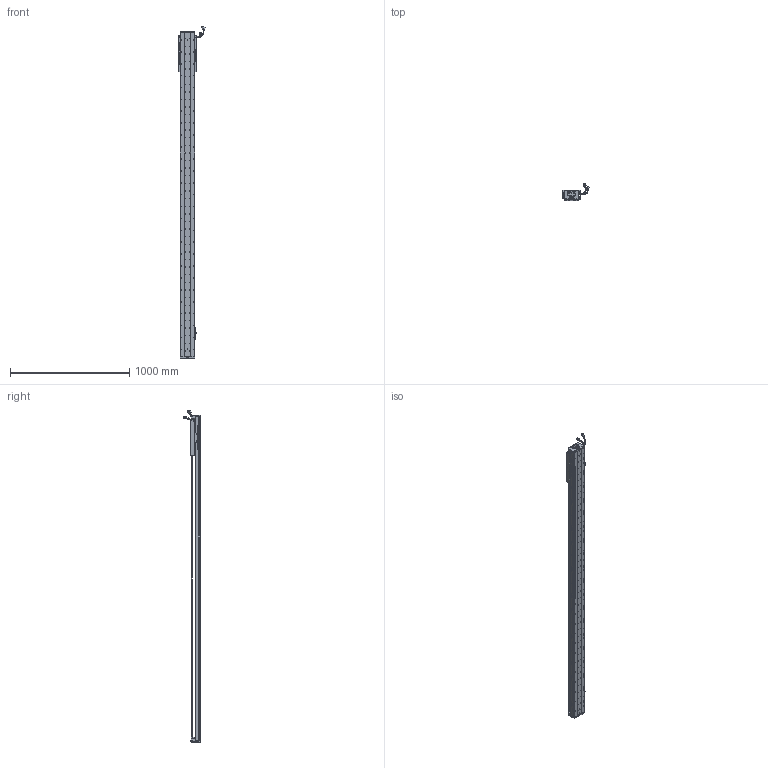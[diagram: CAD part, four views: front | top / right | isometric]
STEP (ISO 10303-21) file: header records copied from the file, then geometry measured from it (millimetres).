
FILE_DESCRIPTION (( 'STEP AP203' ), '1' );
FILE_NAME ('Z4-RY120D-1-L500-B-K.SLDASM_2350.step', '2021-05-17T06:10:11', ( '盈信电脑' ), ( '东莞市道滘镇水果街19号' ), 'SwSTEP 2.0', 'SolidWorks 2016', '' );
FILE_SCHEMA (( 'CONFIG_CONTROL_DESIGN' ));
Length unit declared in the file: millimetre
Products named in the file (37): PBU_SHEET; 榋妏寠巭燃_暯_M2_2; 120-Z-臏賑輸盄裔(21遴); SCALE; SCREW-M1.7; HARNESS-Part-2; Z4-RY120铝滑块（21款）; SCREW-M1.6-2; HOLDER0; COVER; 672嫖萇羲壽假蚾釱; 080黍杅芛假蚾釱21遴; SCALE-Part-1; 140雄赽晤鎢ん堤盄; PSLH080_PSLF2; SHIELDPLATE; Z4-RY120-L500詩湍100mm遵_2350; LABEL; 覜茼ん672; HARNESS-Part-1; SCREW-M1.6-1; Z-120詩湍傷裔啣; COVER-Part-1; SCREW-M1.6; 140蚥薯蝶輸; SCREW-M1.6-3; LABEL-Part-1; Z4-RY120-500-倰第菁釱_2350; SEAL; Z-RY120D詩湍奻揤裔; Z4-RY120D-1-L500-B-K.SLDASM_2350; SCALE-Part-2; HARNESS; SCREW-M1.7-1; RY100FB-遵嫖萇覜茼え; SEAL-Part-1; Z-RY120D詩湍狟揤裔
Assembly tree (43 placements, depth 4):
  Z4-RY120D-1-L500-B-K.SLDASM_2350
    Z4-RY120-500-倰第菁釱_2350
    覜茼ん672  x3
    672嫖萇羲壽假蚾釱  x2
    Z4-RY120铝滑块（21款）
    PSLH080_PSLF2
      SCALE
        SCALE-Part-1
        SCALE-Part-2
      HARNESS
        HARNESS-Part-1
        HARNESS-Part-2
      LABEL
        LABEL-Part-1
      COVER
        COVER-Part-1
      SEAL
        SEAL-Part-1
      榋妏寠巭燃_暯_M2_2
      SHIELDPLATE
      SCREW-M1.7
      SCREW-M1.7-1
      PBU_SHEET
      SCREW-M1.6
      SCREW-M1.6-1
      SCREW-M1.6-2
      SCREW-M1.6-3
      HOLDER0
    080黍杅芛假蚾釱21遴
    120-Z-臏賑輸盄裔(21遴)
    140雄赽晤鎢ん堤盄
    140蚥薯蝶輸  x2
    RY100FB-遵嫖萇覜茼え
    Z-120詩湍傷裔啣  x2
    Z-RY120D詩湍奻揤裔  x2
    Z-RY120D詩湍狟揤裔  x2
    Z4-RY120-L500詩湍100mm遵_2350
Bounding box: 222.83 x 140.94 x 2788.99 mm (x, y, z)
Volume: 6685409.1 mm3; surface area: 2306882.6 mm2
Topology: 38 solids, 38 shells, 3761 faces, 10734 edges, 6770 vertices
Faces by surface type: cylinder 1988, plane 1257, cone 394, torus 69, bspline 53
Entity records: 126817 total; most frequent: CARTESIAN_POINT 38970, ORIENTED_EDGE 18204, DIRECTION 16666, EDGE_CURVE 9102, AXIS2_PLACEMENT_3D 6172, VERTEX_POINT 5890, LINE 4322, VECTOR 4322
